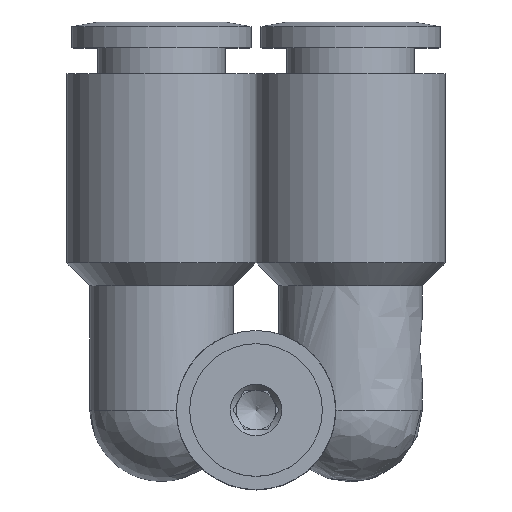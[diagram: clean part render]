
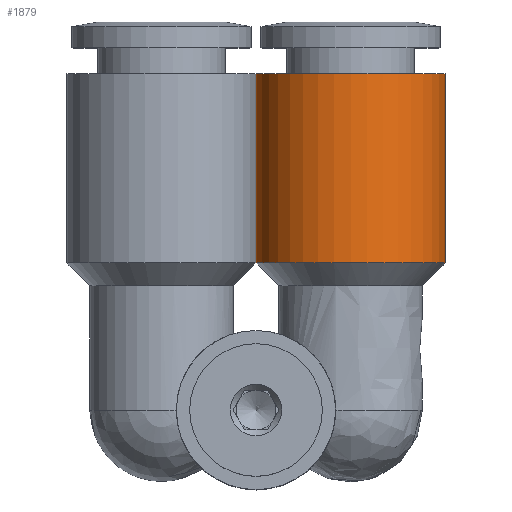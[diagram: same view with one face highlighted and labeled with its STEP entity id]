
A CAD part, top view. The second image highlights one B-rep face of the part: STEP entity #1879.
In plain terms, the highlighted free-form (B-spline) face has degree [1, 2] with [2, 9] control points.
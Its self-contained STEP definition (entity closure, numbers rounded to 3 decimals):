
#1814=CARTESIAN_POINT('',(0.,7.4,0.0));
#1815=VERTEX_POINT('',#1814);
#1816=CARTESIAN_POINT('',(4.75,7.4,0.0));
#1817=DIRECTION('',(0.0,-1.0,0.0));
#1818=DIRECTION('',(1.0,0.0,0.0));
#1819=AXIS2_PLACEMENT_3D('',#1816,#1817,#1818);
#1820=CIRCLE('',#1819,4.75);
#1821=EDGE_CURVE('',#1815,#1815,#1820,.T.);
#1829=CARTESIAN_POINT('',(0.,7.4,0.));
#1830=CARTESIAN_POINT('',(0.,16.9,0.));
#1831=CARTESIAN_POINT('',(0.,7.4,-4.75));
#1832=CARTESIAN_POINT('',(0.,16.9,-4.75));
#1833=CARTESIAN_POINT('',(4.75,7.4,-4.75));
#1834=CARTESIAN_POINT('',(4.75,16.9,-4.75));
#1835=CARTESIAN_POINT('',(9.5,7.4,-4.75));
#1836=CARTESIAN_POINT('',(9.5,16.9,-4.75));
#1837=CARTESIAN_POINT('',(9.5,7.4,0.));
#1838=CARTESIAN_POINT('',(9.5,16.9,0.));
#1839=CARTESIAN_POINT('',(9.5,7.4,4.75));
#1840=CARTESIAN_POINT('',(9.5,16.9,4.75));
#1841=CARTESIAN_POINT('',(4.75,7.4,4.75));
#1842=CARTESIAN_POINT('',(4.75,16.9,4.75));
#1843=CARTESIAN_POINT('',(0.,7.4,4.75));
#1844=CARTESIAN_POINT('',(0.,16.9,4.75));
#1845=CARTESIAN_POINT('',(0.,7.4,0.));
#1846=CARTESIAN_POINT('',(0.,16.9,0.));
#1854=(BOUNDED_SURFACE()B_SPLINE_SURFACE(1,2,((#1829,#1831,#1833,#1835,#1837,#1839,#1841,#1843,#1845),(#1830,#1832,#1834,#1836,#1838,#1840,#1842,#1844,#1846)),.UNSPECIFIED.,.F.,.T.,.U.)B_SPLINE_SURFACE_WITH_KNOTS((2,2),(3,2,2,2,3),(-1.,1.),(0.0,7.461,14.923,22.384,29.845),.UNSPECIFIED.)GEOMETRIC_REPRESENTATION_ITEM()RATIONAL_B_SPLINE_SURFACE(((1.0,0.707,1.0,0.707,1.0,0.707,1.0,0.707,1.0),(1.0,0.707,1.0,0.707,1.0,0.707,1.0,0.707,1.0)))REPRESENTATION_ITEM('')SURFACE());
#1855=CARTESIAN_POINT('',(0.0,16.9,0.0));
#1856=VERTEX_POINT('',#1855);
#1857=CARTESIAN_POINT('',(4.75,16.9,0.0));
#1858=DIRECTION('',(0.0,-1.0,0.0));
#1859=DIRECTION('',(1.0,0.0,0.0));
#1860=AXIS2_PLACEMENT_3D('',#1857,#1858,#1859);
#1861=CIRCLE('',#1860,4.75);
#1862=EDGE_CURVE('',#1856,#1856,#1861,.T.);
#1863=ORIENTED_EDGE('',*,*,#1862,.T.);
#1864=CARTESIAN_POINT('',(0.0,16.9,0.0));
#1865=DIRECTION('',(0.0,-1.0,0.0));
#1866=VECTOR('',#1865,9.5);
#1867=LINE('',#1864,#1866);
#1868=EDGE_CURVE('',#1856,#1815,#1867,.T.);
#1869=ORIENTED_EDGE('',*,*,#1868,.T.);
#1870=ORIENTED_EDGE('',*,*,#1821,.F.);
#1871=CARTESIAN_POINT('',(0.0,16.9,0.0));
#1872=DIRECTION('',(0.0,-1.0,0.0));
#1873=VECTOR('',#1872,9.5);
#1874=LINE('',#1871,#1873);
#1875=EDGE_CURVE('',#1856,#1815,#1874,.T.);
#1876=ORIENTED_EDGE('',*,*,#1875,.F.);
#1877=EDGE_LOOP('',(#1863,#1869,#1870,#1876));
#1878=FACE_OUTER_BOUND('',#1877,.T.);
#1879=ADVANCED_FACE('',(#1878),#1854,.T.);
